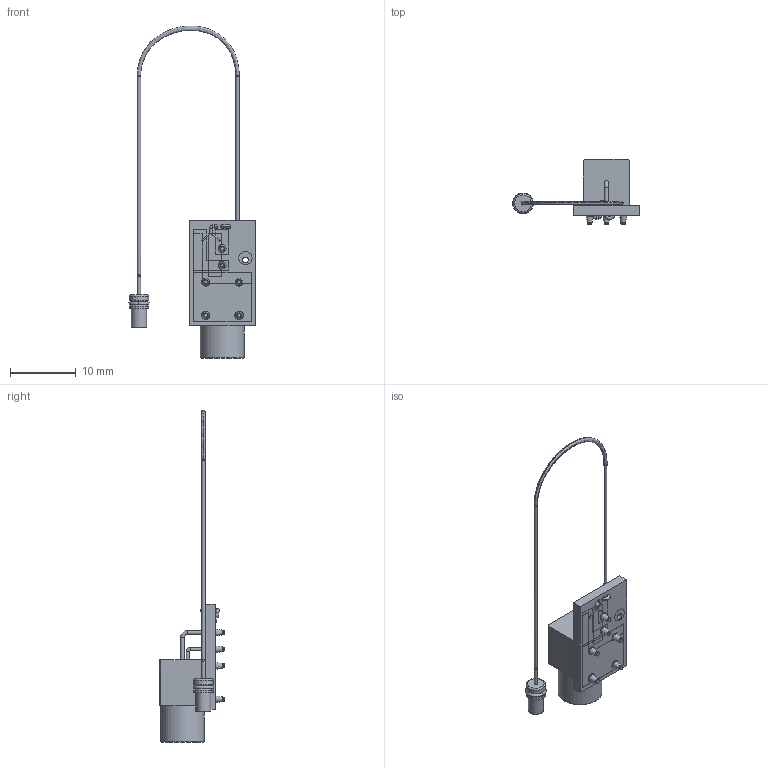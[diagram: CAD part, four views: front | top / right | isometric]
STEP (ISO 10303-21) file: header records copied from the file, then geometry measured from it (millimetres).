
FILE_DESCRIPTION((''),'2;1');
FILE_NAME('Z:\Entwurf\EU05(66)\2600021_65-c.stp','2009-03-16T09:16:53',('11000065'),(''),'Autodesk Inventor 2009','Autodesk Inventor 2009','');
FILE_SCHEMA(('AUTOMOTIVE_DESIGN { 1 0 10303 214 1 1 1 1 }'));
Length unit declared in the file: millimetre
Products named in the file (4): 2600021_65-c; 0390025-01; 2210008-B; 2600021_65-C
Assembly tree (3 placements, depth 2):
  2600021_65-c
    0390025-01
    2210008-B
    2600021_65-C
Bounding box: 19.26 x 9.9 x 50.53 mm (x, y, z)
Volume: 277.7 mm3; surface area: 1625.1 mm2
Topology: 6 solids, 7 shells, 195 faces, 471 edges, 302 vertices
Faces by surface type: plane 84, cylinder 59, torus 24, bspline 22, cone 6
Full cylindrical faces by diameter (mm): 0.2 x4, 0.5 x18, 0.6 x14, 0.8 x6, 0.9 x1, 2 x1, 2.25 x2, 2.3 x1, 2.95 x2, 5 x1, 6.7 x1
Entity records: 8029 total; most frequent: CARTESIAN_POINT 3639, DIRECTION 846, ORIENTED_EDGE 726, EDGE_CURVE 363, AXIS2_PLACEMENT_3D 358, EDGE_LOOP 330, VERTEX_POINT 277, FACE_OUTER_BOUND 194
